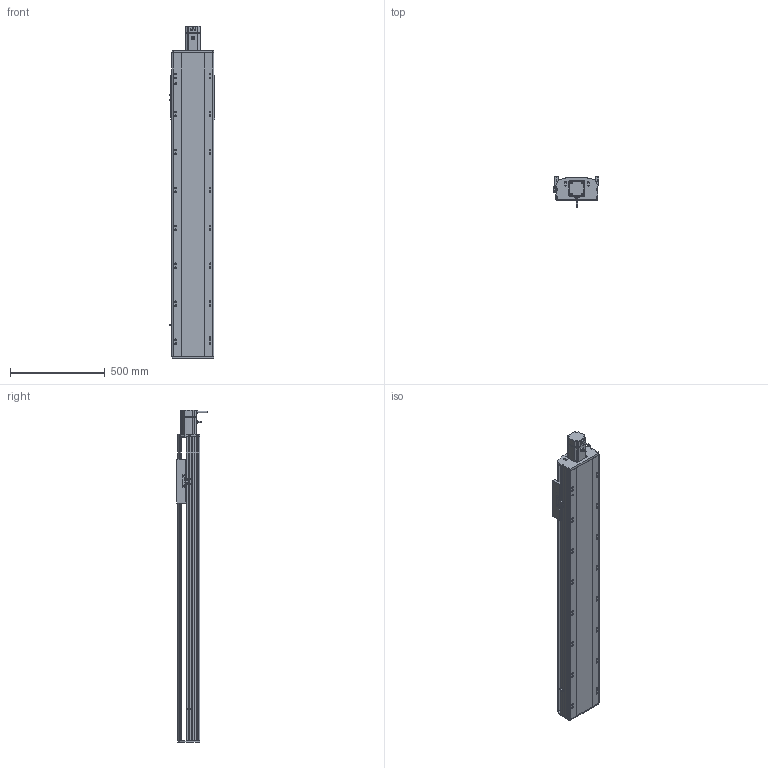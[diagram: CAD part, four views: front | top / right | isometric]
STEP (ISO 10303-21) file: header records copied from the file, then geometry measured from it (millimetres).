
FILE_DESCRIPTION (( 'STEP AP214' ), '1' );
FILE_NAME ('RTH22-XX-1200-E-M75-C4.STEP', '2025-10-24T10:48:25', ( 'Microsoft' ), ( 'Microsoft' ), 'SwSTEP 2.0', 'SolidWorks 2018', '' );
FILE_SCHEMA (( 'AUTOMOTIVE_DESIGN' ));
Length unit declared in the file: millimetre
Products named in the file (9): N_RTH22-E-007奻裔^RTH22-XX-XX-E-M75-C4; RTH22-XX-1200-E-M75-C4; N_RTH22-E-004-SFS25賑釱^RTH22-XX-XX-E-M75-C4; N_RTH22-E-008萇儂啣^RTH22-XX-XX-E-M75-C4; N_RTH22-GY-013外置感应片^RTH22-XX-XX-E-M75-C4; N_RTH22-GY-001耜裔^RTH22-XX-XX-E-M75-C4; N_RTH22-E-011菁釱^RTH22-XX-XX-E-M75-C4; N_OMRON EE-SX672 传感器^RTH22-XX-XX-E-M75-C4; N_750W萇儂^RTH22-XX-XX-E-M75-C4
Assembly tree (10 placements, depth 2):
  RTH22-XX-1200-E-M75-C4
    N_RTH22-E-011菁釱^RTH22-XX-XX-E-M75-C4
    N_RTH22-GY-001耜裔^RTH22-XX-XX-E-M75-C4
    N_RTH22-E-008萇儂啣^RTH22-XX-XX-E-M75-C4
    N_RTH22-E-007奻裔^RTH22-XX-XX-E-M75-C4
    N_RTH22-GY-013外置感应片^RTH22-XX-XX-E-M75-C4
    N_RTH22-E-004-SFS25賑釱^RTH22-XX-XX-E-M75-C4
    N_750W萇儂^RTH22-XX-XX-E-M75-C4
    N_OMRON EE-SX672 传感器^RTH22-XX-XX-E-M75-C4  x3
Bounding box: 238.5 x 160.7 x 1749 mm (x, y, z)
Volume: 21770575.6 mm3; surface area: 2239162.6 mm2
Topology: 10 solids, 10 shells, 1559 faces, 4274 edges, 2759 vertices
Faces by surface type: plane 758, cylinder 460, bspline 279, cone 62
Entity records: 39261 total; most frequent: CARTESIAN_POINT 12265, ORIENTED_EDGE 5516, DIRECTION 5204, EDGE_CURVE 2758, VERTEX_POINT 1795, AXIS2_PLACEMENT_3D 1762, LINE 1680, VECTOR 1680
